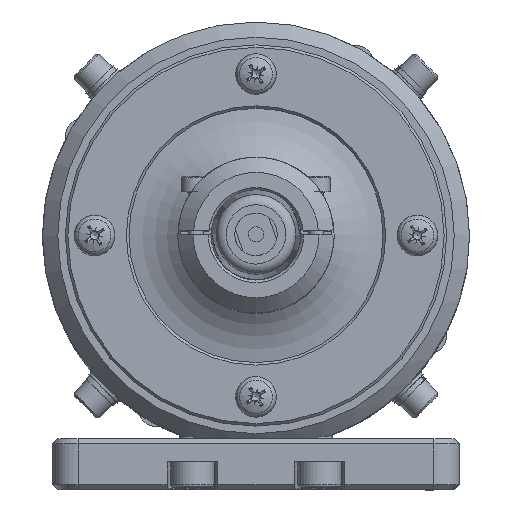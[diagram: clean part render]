
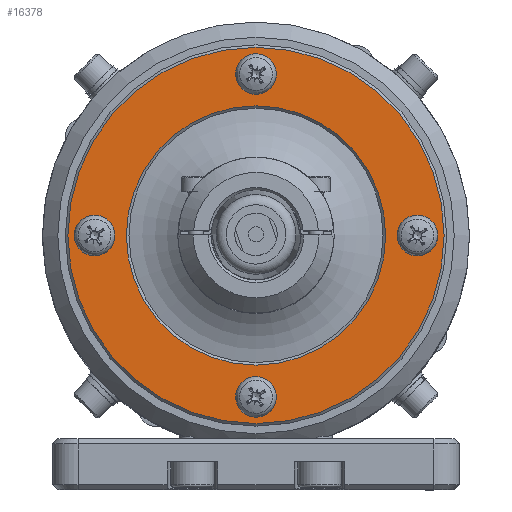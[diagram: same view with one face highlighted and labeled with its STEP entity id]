
A CAD part, top view. The second image highlights one B-rep face of the part: STEP entity #16378.
In plain terms, the highlighted planar face has unit normal (0, 0, 1).
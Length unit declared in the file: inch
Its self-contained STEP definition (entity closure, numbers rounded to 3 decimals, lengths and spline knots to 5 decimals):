
#289=FACE_BOUND('',#2577,.T.);
#290=FACE_BOUND('',#2578,.T.);
#291=FACE_BOUND('',#2579,.T.);
#292=FACE_BOUND('',#2580,.T.);
#293=FACE_BOUND('',#2581,.T.);
#695=PLANE('',#17870);
#1594=FACE_OUTER_BOUND('',#2576,.T.);
#2576=EDGE_LOOP('',(#12519));
#2577=EDGE_LOOP('',(#12520));
#2578=EDGE_LOOP('',(#12521));
#2579=EDGE_LOOP('',(#12522));
#2580=EDGE_LOOP('',(#12523));
#2581=EDGE_LOOP('',(#12524));
#3480=CIRCLE('',#17048,0.15748);
#3517=CIRCLE('',#17131,0.15748);
#3554=CIRCLE('',#17214,0.15748);
#3591=CIRCLE('',#17297,0.15748);
#3845=CIRCLE('',#17866,1.00394);
#3848=CIRCLE('',#17871,1.45669);
#6516=VERTEX_POINT('',#24550);
#6585=VERTEX_POINT('',#25101);
#6654=VERTEX_POINT('',#25652);
#6723=VERTEX_POINT('',#26203);
#7135=VERTEX_POINT('',#28053);
#7138=VERTEX_POINT('',#28063);
#8051=EDGE_CURVE('',#6516,#6516,#3480,.T.);
#8155=EDGE_CURVE('',#6585,#6585,#3517,.T.);
#8259=EDGE_CURVE('',#6654,#6654,#3554,.T.);
#8363=EDGE_CURVE('',#6723,#6723,#3591,.T.);
#9053=EDGE_CURVE('',#7135,#7135,#3845,.T.);
#9058=EDGE_CURVE('',#7138,#7138,#3848,.T.);
#12519=ORIENTED_EDGE('',*,*,#9058,.F.);
#12520=ORIENTED_EDGE('',*,*,#8051,.T.);
#12521=ORIENTED_EDGE('',*,*,#8155,.T.);
#12522=ORIENTED_EDGE('',*,*,#8259,.T.);
#12523=ORIENTED_EDGE('',*,*,#8363,.T.);
#12524=ORIENTED_EDGE('',*,*,#9053,.F.);
#16378=ADVANCED_FACE('',(#1594,#289,#290,#291,#292,#293),#695,.T.);
#17048=AXIS2_PLACEMENT_3D('',#24551,#19206,#19207);
#17131=AXIS2_PLACEMENT_3D('',#25102,#19387,#19388);
#17214=AXIS2_PLACEMENT_3D('',#25653,#19568,#19569);
#17297=AXIS2_PLACEMENT_3D('',#26204,#19749,#19750);
#17866=AXIS2_PLACEMENT_3D('',#28054,#21249,#21250);
#17870=AXIS2_PLACEMENT_3D('',#28062,#21259,#21260);
#17871=AXIS2_PLACEMENT_3D('',#28064,#21261,#21262);
#19206=DIRECTION('center_axis',(0.,0.,
-1.));
#19207=DIRECTION('ref_axis',(0.824,0.567,0.));
#19387=DIRECTION('center_axis',(0.,0.,
-1.));
#19388=DIRECTION('ref_axis',(0.567,-0.824,0.));
#19568=DIRECTION('center_axis',(0.,0.,
-1.));
#19569=DIRECTION('ref_axis',(-0.824,-0.567,0.));
#19749=DIRECTION('center_axis',(0.,0.,
-1.));
#19750=DIRECTION('ref_axis',(-0.567,0.824,0.));
#21249=DIRECTION('center_axis',(0.,0.,
1.));
#21250=DIRECTION('ref_axis',(0.,1.,0.));
#21259=DIRECTION('center_axis',(0.,0.,
1.));
#21260=DIRECTION('ref_axis',(0.,-1.,0.));
#21261=DIRECTION('center_axis',(0.,0.,
-1.));
#21262=DIRECTION('ref_axis',(0.,1.,0.));
#24550=CARTESIAN_POINT('',(1.12029,-0.0893,0.66929));
#24551=CARTESIAN_POINT('Origin',(1.25,0.,
0.66929));
#25101=CARTESIAN_POINT('',(-0.0893,-1.12029,0.66929));
#25102=CARTESIAN_POINT('Origin',(0.,-1.25,
0.66929));
#25652=CARTESIAN_POINT('',(-1.12029,0.0893,0.66929));
#25653=CARTESIAN_POINT('Origin',(-1.25,0.,
0.66929));
#26203=CARTESIAN_POINT('',(0.0893,1.12029,0.66929));
#26204=CARTESIAN_POINT('Origin',(0.,1.25,
0.66929));
#28053=CARTESIAN_POINT('',(0.,-1.00394,0.66929));
#28054=CARTESIAN_POINT('Origin',(0.,0.,
0.66929));
#28062=CARTESIAN_POINT('Origin',(0.,0.,
0.66929));
#28063=CARTESIAN_POINT('',(0.,-1.45669,0.66929));
#28064=CARTESIAN_POINT('Origin',(0.,0.,
0.66929));
